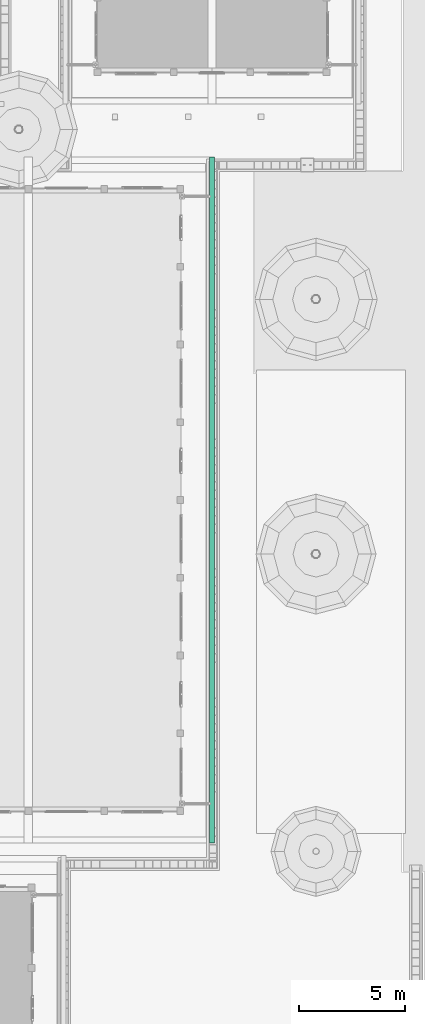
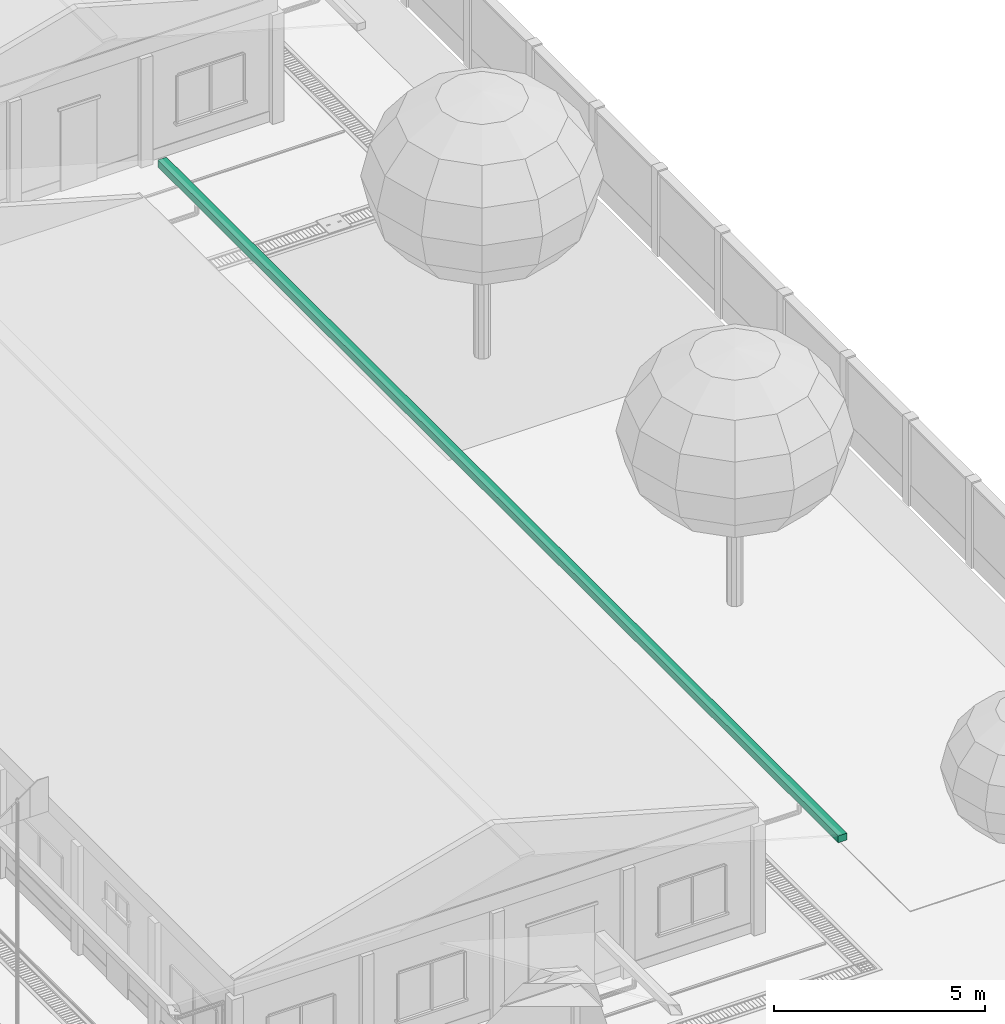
# One storey, part 105 of 166: 1 flow segment.
"""IFC2X3 building model written with IfcOpenShell, lengths in metres."""

from ifc_helpers import new_model, si_unit, origin, origin_with_axes, place, context, subcontext, project, spatial, faceted_brep, element, save


model = new_model("IFC2X3")

# Units and contexts
model_context = context("Model", 3, precision=1e-05, world=origin_with_axes())
body_context = subcontext(model_context, "Body", "Model", "MODEL_VIEW")
ifc_project = project(units=[si_unit("LENGTHUNIT", "METRE"), si_unit("AREAUNIT", "SQUARE_METRE"), si_unit("VOLUMEUNIT", "CUBIC_METRE"), si_unit("PLANEANGLEUNIT", "RADIAN")], contexts=[model_context])

# Site, building, storey
site_placement = place(None, origin_with_axes())
site = spatial("IfcSite", under=ifc_project, at=site_placement, Name="Predio Los Mangos - Morales, San Martín", CompositionType="ELEMENT")
building_placement = place(site_placement, origin())
building = spatial("IfcBuilding", under=site, at=building_placement, Name="Hogar de Refugio Temporal", CompositionType="ELEMENT")
storey_placement = place(building_placement, origin())
storey = spatial("IfcBuildingStorey", under=building, at=storey_placement, Name="NIVEL 1 (NPT +0.00)", CompositionType="ELEMENT", Elevation=0.0)

# Flow segment
flow_segment_placement = place(storey_placement, origin())
element("IfcFlowSegment", 1, at=flow_segment_placement, inside=storey, Name="E-05_canaleta", ObjectType="Canaleta", context=body_context, shape_type="Brep", body=[
    faceted_brep([(60.98, 56.4, 3.13), (60.98, 88.7, 3.13), (61.22, 88.7, 3.13), (61.22, 56.4, 3.13), (60.98, 56.4, 3.33), (61.22, 56.4, 3.33), (61.22, 88.7, 3.33), (60.98, 88.7, 3.33)], [[[0, 1, 2, 3]], [[4, 5, 6, 7]], [[0, 3, 5, 4]], [[3, 2, 6, 5]], [[2, 1, 7, 6]], [[1, 0, 4, 7]]]),
])

save(model, "model.ifc")
